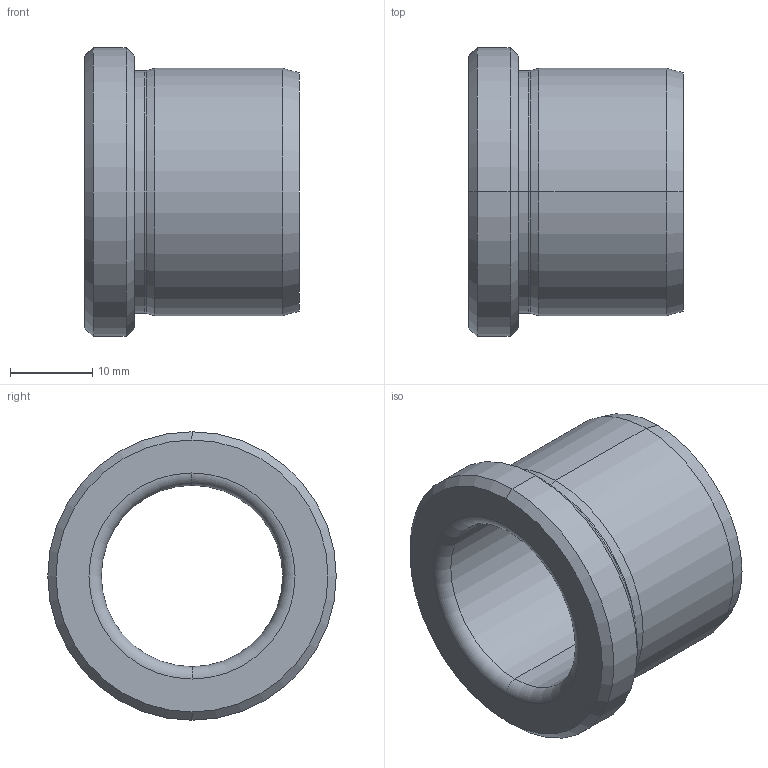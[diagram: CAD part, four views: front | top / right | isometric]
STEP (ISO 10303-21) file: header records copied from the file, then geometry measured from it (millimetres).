
FILE_DESCRIPTION (( 'STEP AP214' ), '1' );
FILE_NAME ('BRCVBG-22x26.STEP', '2020-07-21T12:13:17', ( '' ), ( '' ), 'SwSTEP 2.0', 'SolidWorks 2018', '' );
FILE_SCHEMA (( 'AUTOMOTIVE_DESIGN' ));
Length unit declared in the file: millimetre
Products named in the file (1): BRCVBG-22x26
Bounding box: 26 x 35 x 35 mm (x, y, z)
Volume: 9779.9 mm3; surface area: 5312.2 mm2
Topology: 1 solids, 1 shells, 23 faces, 46 edges, 26 vertices
Faces by surface type: cone 8, cylinder 8, torus 4, plane 3
Entity records: 636 total; most frequent: DIRECTION 124, CARTESIAN_POINT 96, ORIENTED_EDGE 92, AXIS2_PLACEMENT_3D 54, EDGE_CURVE 46, CIRCLE 30, EDGE_LOOP 26, VERTEX_POINT 26
